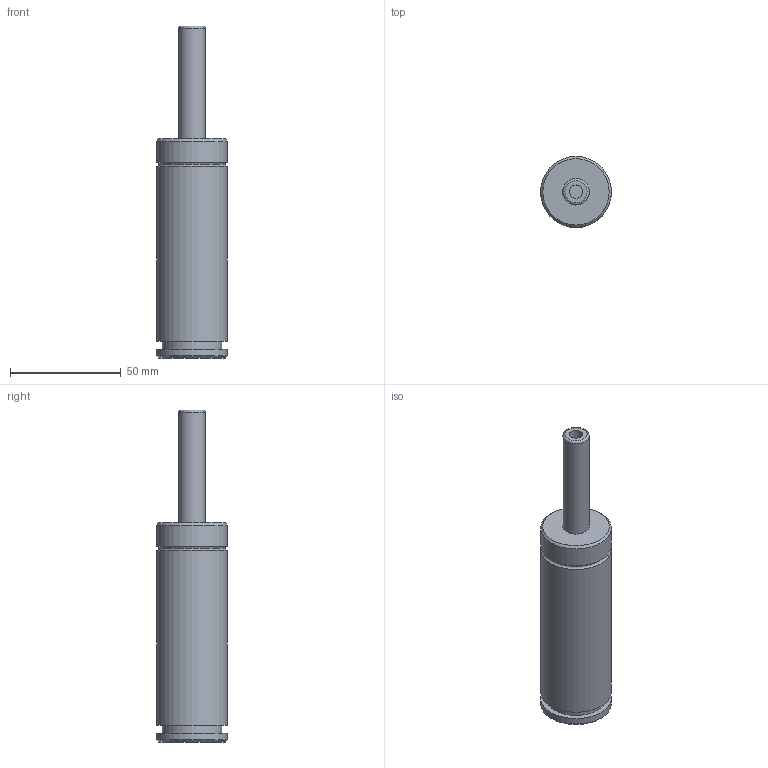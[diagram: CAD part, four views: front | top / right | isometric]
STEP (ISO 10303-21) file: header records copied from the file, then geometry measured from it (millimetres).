
FILE_DESCRIPTION(('FreeCAD Model'),'2;1');
FILE_NAME('Open CASCADE Shape Model','2024-11-14T10:08:13',('Author'),( ''),'Open CASCADE STEP processor 7.6','FreeCAD','Unknown');
FILE_SCHEMA(('AUTOMOTIVE_DESIGN { 1 0 10303 214 1 1 1 1 }'));
Length unit declared in the file: millimetre
Products named in the file (5): Unnamed; Part003; Cut; Part009; Cut003
Assembly tree (4 placements, depth 3):
  Unnamed
    Part003
      Cut
    Part009
      Cut003
Bounding box: 32 x 32 x 150 mm (x, y, z)
Volume: 83243.2 mm3; surface area: 14799.8 mm2
Topology: 2 solids, 2 shells, 24 faces, 36 edges, 22 vertices
Faces by surface type: plane 10, cylinder 9, torus 3, cone 2
Full cylindrical faces by diameter (mm): 6 x4, 12 x1, 27 x1, 32 x3
Entity records: 639 total; most frequent: DIRECTION 119, CARTESIAN_POINT 87, ORIENTED_EDGE 72, AXIS2_PLACEMENT_3D 54, EDGE_CURVE 36, FACE_BOUND 30, EDGE_LOOP 30, CIRCLE 25
